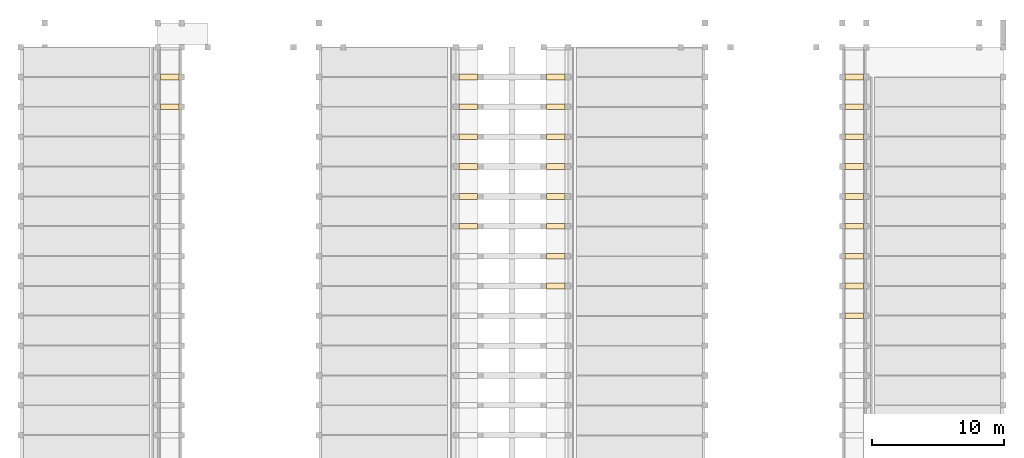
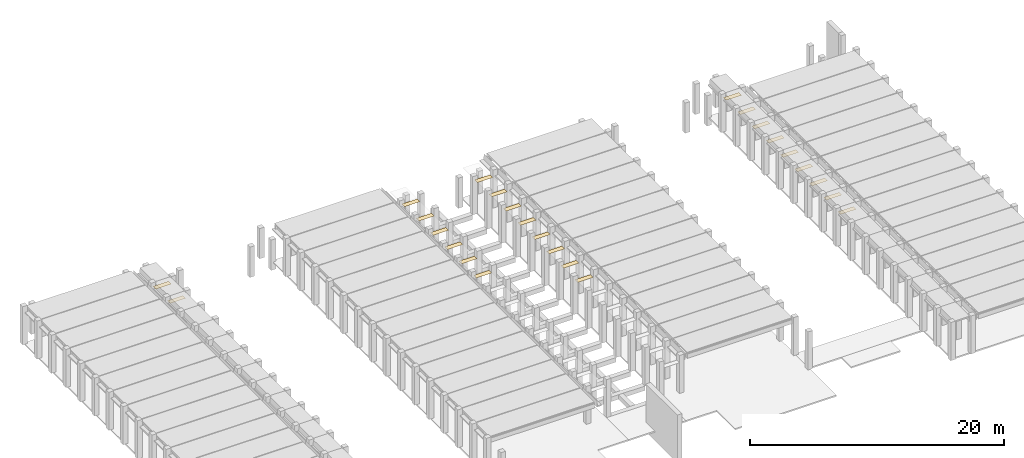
# One storey, part 18 of 18: 29 coverings.
"""IFC2X3 building model written with IfcOpenShell, lengths in millimetres."""

from ifc_helpers import new_model, entity, si_unit, converted_unit, derived_unit, direction, frame, origin, place, context, subcontext, project, spatial, face_set, surface_model, type_object, element, save


model = new_model("IFC2X3")

# Units and contexts
model_context = context("Model", 3, precision=0.01, world=origin(), true_north=direction((6.12303176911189e-17, 1.0)))
body_context = subcontext(model_context, "Body", "Model", "MODEL_VIEW")
ifc_project = project(units=[si_unit("LENGTHUNIT", "METRE", prefix="MILLI"), si_unit("AREAUNIT", "SQUARE_METRE"), si_unit("VOLUMEUNIT", "CUBIC_METRE"), converted_unit("PLANEANGLEUNIT", "DEGREE", entity("IfcRatioMeasure", 0.0174532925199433), si_unit("PLANEANGLEUNIT", "RADIAN"), dimensions=[0, 0, 0, 0, 0, 0, 0]), si_unit("MASSUNIT", "GRAM", prefix="KILO"), derived_unit("MASSDENSITYUNIT", [(si_unit("MASSUNIT", "GRAM", prefix="KILO"), 1), (si_unit("LENGTHUNIT", "METRE"), -3)]), derived_unit("MOMENTOFINERTIAUNIT", [(si_unit("LENGTHUNIT", "METRE"), 4)]), si_unit("TIMEUNIT", "SECOND"), si_unit("FREQUENCYUNIT", "HERTZ"), si_unit("THERMODYNAMICTEMPERATUREUNIT", "DEGREE_CELSIUS"), derived_unit("THERMALTRANSMITTANCEUNIT", [(si_unit("MASSUNIT", "GRAM", prefix="KILO"), 1), (si_unit("THERMODYNAMICTEMPERATUREUNIT", "KELVIN"), -1), (si_unit("TIMEUNIT", "SECOND"), -3)]), derived_unit("VOLUMETRICFLOWRATEUNIT", [(si_unit("LENGTHUNIT", "METRE"), 3), (si_unit("TIMEUNIT", "SECOND"), -1)]), si_unit("ELECTRICCURRENTUNIT", "AMPERE"), si_unit("ELECTRICVOLTAGEUNIT", "VOLT"), si_unit("POWERUNIT", "WATT"), si_unit("FORCEUNIT", "NEWTON", prefix="KILO"), si_unit("ILLUMINANCEUNIT", "LUX"), si_unit("LUMINOUSFLUXUNIT", "LUMEN"), si_unit("LUMINOUSINTENSITYUNIT", "CANDELA"), derived_unit("USERDEFINED", [(si_unit("MASSUNIT", "GRAM", prefix="KILO"), -1), (si_unit("LENGTHUNIT", "METRE"), -2), (si_unit("TIMEUNIT", "SECOND"), 3), (si_unit("LUMINOUSFLUXUNIT", "LUMEN"), 1)]), derived_unit("LINEARVELOCITYUNIT", [(si_unit("LENGTHUNIT", "METRE"), 1), (si_unit("TIMEUNIT", "SECOND"), -1)]), si_unit("PRESSUREUNIT", "PASCAL"), derived_unit("USERDEFINED", [(si_unit("LENGTHUNIT", "METRE"), -2), (si_unit("MASSUNIT", "GRAM", prefix="KILO"), 1), (si_unit("TIMEUNIT", "SECOND"), -2)]), derived_unit("LINEARFORCEUNIT", [(si_unit("MASSUNIT", "GRAM", prefix="KILO"), 1), (si_unit("LENGTHUNIT", "METRE"), 1), (si_unit("TIMEUNIT", "SECOND"), -2), (si_unit("LENGTHUNIT", "METRE"), -1)]), derived_unit("PLANARFORCEUNIT", [(si_unit("MASSUNIT", "GRAM", prefix="KILO"), 1), (si_unit("LENGTHUNIT", "METRE"), 1), (si_unit("TIMEUNIT", "SECOND"), -2), (si_unit("LENGTHUNIT", "METRE"), -2)])], contexts=[model_context])

# Site, building, storey
site_placement = place(None, frame((10627.5135316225, 21939.0796949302, 0.0)))
site = spatial("IfcSite", under=ifc_project, at=site_placement, Name="Default", CompositionType="ELEMENT")
building_placement = place(site_placement, origin())
building = spatial("IfcBuilding", under=site, at=building_placement, CompositionType="ELEMENT")
storey_placement = place(building_placement, frame((0.0, 0.0, 3660.0)))
storey = spatial("IfcBuildingStorey", under=building, at=storey_placement, Name="R+1", CompositionType="ELEMENT", Elevation=3660.0)

# Coverings
covering_type_1 = type_object("IfcCoveringType", Name="Basic Ceiling:Generic", PredefinedType="CEILING")
covering_1_placement = place(storey_placement, frame((22557.4864683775, 14005.9203050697, 2959.0)))
element("IfcCovering", 1, at=covering_1_placement, inside=storey, type_object=covering_type_1, Name="Basic Ceiling:Generic", ObjectType="Basic Ceiling:Generic", PredefinedType="CEILING", context=body_context, shape_type="SurfaceModel", body=[
    surface_model("IfcFaceBasedSurfaceModel", [(0.0, 430.0, 0.0), (0.0, 0.0, 0.0), (1400.0, 0.0, 0.0), (1400.0, 430.0, 0.0)], [face_set([[[0, 1, 2, 3]]])]),
])
covering_type_2 = type_object("IfcCoveringType", Name="Basic Ceiling:Generic", PredefinedType="CEILING")
covering_2_placement = place(storey_placement, frame((22557.4864683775, 11745.9203050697, 2959.0)))
element("IfcCovering", 2, at=covering_2_placement, inside=storey, type_object=covering_type_2, Name="Basic Ceiling:Generic", ObjectType="Basic Ceiling:Generic", PredefinedType="CEILING", context=body_context, shape_type="SurfaceModel", body=[
    surface_model("IfcFaceBasedSurfaceModel", [(0.0, 430.0, 0.0), (0.0, 0.0, 0.0), (1400.0, 0.0, 0.0), (1400.0, 430.0, 0.0)], [face_set([[[0, 1, 2, 3]]])]),
])
covering_type_3 = type_object("IfcCoveringType", Name="Basic Ceiling:Generic", PredefinedType="CEILING")
covering_3_placement = place(storey_placement, frame((22557.4864683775, 9485.92030506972, 2959.0)))
element("IfcCovering", 3, at=covering_3_placement, inside=storey, type_object=covering_type_3, Name="Basic Ceiling:Generic", ObjectType="Basic Ceiling:Generic", PredefinedType="CEILING", context=body_context, shape_type="SurfaceModel", body=[
    surface_model("IfcFaceBasedSurfaceModel", [(0.0, 430.0, 0.0), (0.0, 0.0, 0.0), (1400.0, 0.0, 0.0), (1400.0, 430.0, 0.0)], [face_set([[[0, 1, 2, 3]]])]),
])
covering_type_4 = type_object("IfcCoveringType", Name="Basic Ceiling:Generic", PredefinedType="CEILING")
covering_4_placement = place(storey_placement, frame((22557.4864683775, 7225.92030506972, 2959.0)))
element("IfcCovering", 4, at=covering_4_placement, inside=storey, type_object=covering_type_4, Name="Basic Ceiling:Generic", ObjectType="Basic Ceiling:Generic", PredefinedType="CEILING", context=body_context, shape_type="SurfaceModel", body=[
    surface_model("IfcFaceBasedSurfaceModel", [(0.0, 430.0, 0.0), (0.0, 0.0, 0.0), (1400.0, 0.0, 0.0), (1400.0, 430.0, 0.0)], [face_set([[[0, 1, 2, 3]]])]),
])
covering_type_5 = type_object("IfcCoveringType", Name="Basic Ceiling:Generic", PredefinedType="CEILING")
covering_5_placement = place(storey_placement, frame((22557.4864683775, 4965.92030506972, 2959.0)))
element("IfcCovering", 5, at=covering_5_placement, inside=storey, type_object=covering_type_5, Name="Basic Ceiling:Generic", ObjectType="Basic Ceiling:Generic", PredefinedType="CEILING", context=body_context, shape_type="SurfaceModel", body=[
    surface_model("IfcFaceBasedSurfaceModel", [(0.0, 430.0, 0.0), (0.0, 0.0, 0.0), (1400.0, 0.0, 0.0), (1400.0, 430.0, 0.0)], [face_set([[[0, 1, 2, 3]]])]),
])
covering_type_6 = type_object("IfcCoveringType", Name="Basic Ceiling:Generic", PredefinedType="CEILING")
covering_6_placement = place(storey_placement, frame((22557.4864683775, 2705.92030506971, 2959.0)))
element("IfcCovering", 6, at=covering_6_placement, inside=storey, type_object=covering_type_6, Name="Basic Ceiling:Generic", ObjectType="Basic Ceiling:Generic", PredefinedType="CEILING", context=body_context, shape_type="SurfaceModel", body=[
    surface_model("IfcFaceBasedSurfaceModel", [(0.0, 430.0, 0.0), (0.0, 0.0, 0.0), (1400.0, 0.0, 0.0), (1400.0, 430.0, 0.0)], [face_set([[[0, 1, 2, 3]]])]),
])
covering_type_7 = type_object("IfcCoveringType", Name="Basic Ceiling:Generic", PredefinedType="CEILING")
covering_7_placement = place(storey_placement, frame((22557.4864683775, 14005.9203050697, 2959.0)))
element("IfcCovering", 7, at=covering_7_placement, inside=storey, type_object=covering_type_7, Name="Basic Ceiling:Generic", ObjectType="Basic Ceiling:Generic", PredefinedType="CEILING", context=body_context, shape_type="SurfaceModel", body=[
    surface_model("IfcFaceBasedSurfaceModel", [(0.0, 431.696695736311, 0.0), (0.0, 0.0, 0.0), (1400.0, 0.0, 0.0), (1400.0, 431.696695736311, 0.0)], [face_set([[[0, 1, 2, 3]]])]),
])
covering_type_8 = type_object("IfcCoveringType", Name="Basic Ceiling:Generic", PredefinedType="CEILING")
covering_8_placement = place(storey_placement, frame((-32.5135316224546, 14005.9203050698, 2959.0)))
element("IfcCovering", 8, at=covering_8_placement, inside=storey, type_object=covering_type_8, Name="Basic Ceiling:Generic", ObjectType="Basic Ceiling:Generic", PredefinedType="CEILING", context=body_context, shape_type="SurfaceModel", body=[
    surface_model("IfcFaceBasedSurfaceModel", [(0.0, 430.0, 0.0), (0.0, 0.0, 0.0), (1400.0, 0.0, 0.0), (1400.0, 430.0, 0.0)], [face_set([[[0, 1, 2, 3]]])]),
])
covering_type_9 = type_object("IfcCoveringType", Name="Basic Ceiling:Generic", PredefinedType="CEILING")
covering_9_placement = place(storey_placement, frame((-32.5135316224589, 11745.9203050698, 2959.0)))
element("IfcCovering", 9, at=covering_9_placement, inside=storey, type_object=covering_type_9, Name="Basic Ceiling:Generic", ObjectType="Basic Ceiling:Generic", PredefinedType="CEILING", context=body_context, shape_type="SurfaceModel", body=[
    surface_model("IfcFaceBasedSurfaceModel", [(0.0, 430.0, 0.0), (0.0, 0.0, 0.0), (1400.0, 0.0, 0.0), (1400.0, 430.0, 0.0)], [face_set([[[0, 1, 2, 3]]])]),
])
covering_type_10 = type_object("IfcCoveringType", Name="Basic Ceiling:Generic", PredefinedType="CEILING")
covering_10_placement = place(storey_placement, frame((-32.5135316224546, 14005.9203050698, 2959.0)))
element("IfcCovering", 10, at=covering_10_placement, inside=storey, type_object=covering_type_10, Name="Basic Ceiling:Generic", ObjectType="Basic Ceiling:Generic", PredefinedType="CEILING", context=body_context, shape_type="SurfaceModel", body=[
    surface_model("IfcFaceBasedSurfaceModel", [(0.0, 431.696695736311, 0.0), (0.0, 0.0, 0.0), (1400.0, 0.0, 0.0), (1400.0, 431.696695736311, 0.0)], [face_set([[[0, 1, 2, 3]]])]),
])
covering_type_11 = type_object("IfcCoveringType", Name="Basic Ceiling:Generic", PredefinedType="CEILING")
covering_11_placement = place(storey_placement, frame((29197.4864683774, 14005.9203050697, 2959.0)))
element("IfcCovering", 11, at=covering_11_placement, inside=storey, type_object=covering_type_11, Name="Basic Ceiling:Generic", ObjectType="Basic Ceiling:Generic", PredefinedType="CEILING", context=body_context, shape_type="SurfaceModel", body=[
    surface_model("IfcFaceBasedSurfaceModel", [(1400.0, 430.0, 0.0), (0.0, 430.0, 0.0), (0.0, 0.0, 0.0), (1400.0, 0.0, 0.0)], [face_set([[[0, 1, 2, 3]]])]),
])
covering_type_12 = type_object("IfcCoveringType", Name="Basic Ceiling:Generic", PredefinedType="CEILING")
covering_12_placement = place(storey_placement, frame((29197.4864683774, 11745.9203050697, 2959.0)))
element("IfcCovering", 12, at=covering_12_placement, inside=storey, type_object=covering_type_12, Name="Basic Ceiling:Generic", ObjectType="Basic Ceiling:Generic", PredefinedType="CEILING", context=body_context, shape_type="SurfaceModel", body=[
    surface_model("IfcFaceBasedSurfaceModel", [(1400.0, 430.0, 0.0), (0.0, 430.0, 0.0), (0.0, 0.0, 0.0), (1400.0, 0.0, 0.0)], [face_set([[[0, 1, 2, 3]]])]),
])
covering_type_13 = type_object("IfcCoveringType", Name="Basic Ceiling:Generic", PredefinedType="CEILING")
covering_13_placement = place(storey_placement, frame((29197.4864683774, 9485.92030506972, 2959.0)))
element("IfcCovering", 13, at=covering_13_placement, inside=storey, type_object=covering_type_13, Name="Basic Ceiling:Generic", ObjectType="Basic Ceiling:Generic", PredefinedType="CEILING", context=body_context, shape_type="SurfaceModel", body=[
    surface_model("IfcFaceBasedSurfaceModel", [(1400.0, 430.0, 0.0), (0.0, 430.0, 0.0), (0.0, 0.0, 0.0), (1400.0, 0.0, 0.0)], [face_set([[[0, 1, 2, 3]]])]),
])
covering_type_14 = type_object("IfcCoveringType", Name="Basic Ceiling:Generic", PredefinedType="CEILING")
covering_14_placement = place(storey_placement, frame((29197.4864683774, 7225.92030506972, 2959.0)))
element("IfcCovering", 14, at=covering_14_placement, inside=storey, type_object=covering_type_14, Name="Basic Ceiling:Generic", ObjectType="Basic Ceiling:Generic", PredefinedType="CEILING", context=body_context, shape_type="SurfaceModel", body=[
    surface_model("IfcFaceBasedSurfaceModel", [(1400.0, 430.0, 0.0), (0.0, 430.0, 0.0), (0.0, 0.0, 0.0), (1400.0, 0.0, 0.0)], [face_set([[[0, 1, 2, 3]]])]),
])
covering_type_15 = type_object("IfcCoveringType", Name="Basic Ceiling:Generic", PredefinedType="CEILING")
covering_15_placement = place(storey_placement, frame((29197.4864683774, 4965.92030506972, 2959.0)))
element("IfcCovering", 15, at=covering_15_placement, inside=storey, type_object=covering_type_15, Name="Basic Ceiling:Generic", ObjectType="Basic Ceiling:Generic", PredefinedType="CEILING", context=body_context, shape_type="SurfaceModel", body=[
    surface_model("IfcFaceBasedSurfaceModel", [(1400.0, 430.0, 0.0), (0.0, 430.0, 0.0), (0.0, 0.0, 0.0), (1400.0, 0.0, 0.0)], [face_set([[[0, 1, 2, 3]]])]),
])
covering_type_16 = type_object("IfcCoveringType", Name="Basic Ceiling:Generic", PredefinedType="CEILING")
covering_16_placement = place(storey_placement, frame((29197.4864683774, 2705.92030506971, 2959.0)))
element("IfcCovering", 16, at=covering_16_placement, inside=storey, type_object=covering_type_16, Name="Basic Ceiling:Generic", ObjectType="Basic Ceiling:Generic", PredefinedType="CEILING", context=body_context, shape_type="SurfaceModel", body=[
    surface_model("IfcFaceBasedSurfaceModel", [(1400.0, 430.0, 0.0), (0.0, 430.0, 0.0), (0.0, 0.0, 0.0), (1400.0, 0.0, 0.0)], [face_set([[[0, 1, 2, 3]]])]),
])
covering_type_17 = type_object("IfcCoveringType", Name="Basic Ceiling:Generic", PredefinedType="CEILING")
covering_17_placement = place(storey_placement, frame((29197.4864683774, 445.920305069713, 2959.0)))
element("IfcCovering", 17, at=covering_17_placement, inside=storey, type_object=covering_type_17, Name="Basic Ceiling:Generic", ObjectType="Basic Ceiling:Generic", PredefinedType="CEILING", context=body_context, shape_type="SurfaceModel", body=[
    surface_model("IfcFaceBasedSurfaceModel", [(1400.0, 430.0, 0.0), (0.0, 430.0, 0.0), (0.0, 0.0, 0.0), (1400.0, 0.0, 0.0)], [face_set([[[0, 1, 2, 3]]])]),
])
covering_type_18 = type_object("IfcCoveringType", Name="Basic Ceiling:Generic", PredefinedType="CEILING")
covering_18_placement = place(storey_placement, frame((29197.4864683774, -1814.07969493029, 2959.0)))
element("IfcCovering", 18, at=covering_18_placement, inside=storey, type_object=covering_type_18, Name="Basic Ceiling:Generic", ObjectType="Basic Ceiling:Generic", PredefinedType="CEILING", context=body_context, shape_type="SurfaceModel", body=[
    surface_model("IfcFaceBasedSurfaceModel", [(1400.0, 430.0, 0.0), (0.0, 430.0, 0.0), (0.0, 0.0, 0.0), (1400.0, 0.0, 0.0)], [face_set([[[0, 1, 2, 3]]])]),
])
covering_type_19 = type_object("IfcCoveringType", Name="Basic Ceiling:Generic", PredefinedType="CEILING")
covering_19_placement = place(storey_placement, frame((29197.4864683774, 14005.9203050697, 2959.0)))
element("IfcCovering", 19, at=covering_19_placement, inside=storey, type_object=covering_type_19, Name="Basic Ceiling:Generic", ObjectType="Basic Ceiling:Generic", PredefinedType="CEILING", context=body_context, shape_type="SurfaceModel", body=[
    surface_model("IfcFaceBasedSurfaceModel", [(1400.0, 431.696695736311, 0.0), (0.0, 431.696695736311, 0.0), (0.0, 0.0, 0.0), (1400.0, 0.0, 0.0)], [face_set([[[0, 1, 2, 3]]])]),
])
covering_type_20 = type_object("IfcCoveringType", Name="Basic Ceiling:Generic", PredefinedType="CEILING")
covering_20_placement = place(storey_placement, frame((51787.4864683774, 14005.9203050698, 2959.0)))
element("IfcCovering", 20, at=covering_20_placement, inside=storey, type_object=covering_type_20, Name="Basic Ceiling:Generic", ObjectType="Basic Ceiling:Generic", PredefinedType="CEILING", context=body_context, shape_type="SurfaceModel", body=[
    surface_model("IfcFaceBasedSurfaceModel", [(1400.0, 430.0, 0.0), (0.0, 430.0, 0.0), (0.0, 0.0, 0.0), (1400.0, 0.0, 0.0)], [face_set([[[0, 1, 2, 3]]])]),
])
covering_type_21 = type_object("IfcCoveringType", Name="Basic Ceiling:Generic", PredefinedType="CEILING")
covering_21_placement = place(storey_placement, frame((51787.4864683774, 11745.9203050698, 2959.0)))
element("IfcCovering", 21, at=covering_21_placement, inside=storey, type_object=covering_type_21, Name="Basic Ceiling:Generic", ObjectType="Basic Ceiling:Generic", PredefinedType="CEILING", context=body_context, shape_type="SurfaceModel", body=[
    surface_model("IfcFaceBasedSurfaceModel", [(1400.0, 430.0, 0.0), (0.0, 430.0, 0.0), (0.0, 0.0, 0.0), (1400.0, 0.0, 0.0)], [face_set([[[0, 1, 2, 3]]])]),
])
covering_type_22 = type_object("IfcCoveringType", Name="Basic Ceiling:Generic", PredefinedType="CEILING")
covering_22_placement = place(storey_placement, frame((51787.4864683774, 9485.92030506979, 2959.0)))
element("IfcCovering", 22, at=covering_22_placement, inside=storey, type_object=covering_type_22, Name="Basic Ceiling:Generic", ObjectType="Basic Ceiling:Generic", PredefinedType="CEILING", context=body_context, shape_type="SurfaceModel", body=[
    surface_model("IfcFaceBasedSurfaceModel", [(1400.0, 430.0, 0.0), (0.0, 430.0, 0.0), (0.0, 0.0, 0.0), (1400.0, 0.0, 0.0)], [face_set([[[0, 1, 2, 3]]])]),
])
covering_type_23 = type_object("IfcCoveringType", Name="Basic Ceiling:Generic", PredefinedType="CEILING")
covering_23_placement = place(storey_placement, frame((51787.4864683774, 7225.92030506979, 2959.0)))
element("IfcCovering", 23, at=covering_23_placement, inside=storey, type_object=covering_type_23, Name="Basic Ceiling:Generic", ObjectType="Basic Ceiling:Generic", PredefinedType="CEILING", context=body_context, shape_type="SurfaceModel", body=[
    surface_model("IfcFaceBasedSurfaceModel", [(1400.0, 430.0, 0.0), (0.0, 430.0, 0.0), (0.0, 0.0, 0.0), (1400.0, 0.0, 0.0)], [face_set([[[0, 1, 2, 3]]])]),
])
covering_type_24 = type_object("IfcCoveringType", Name="Basic Ceiling:Generic", PredefinedType="CEILING")
covering_24_placement = place(storey_placement, frame((51787.4864683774, 4965.92030506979, 2959.0)))
element("IfcCovering", 24, at=covering_24_placement, inside=storey, type_object=covering_type_24, Name="Basic Ceiling:Generic", ObjectType="Basic Ceiling:Generic", PredefinedType="CEILING", context=body_context, shape_type="SurfaceModel", body=[
    surface_model("IfcFaceBasedSurfaceModel", [(1400.0, 430.0, 0.0), (0.0, 430.0, 0.0), (0.0, 0.0, 0.0), (1400.0, 0.0, 0.0)], [face_set([[[0, 1, 2, 3]]])]),
])
covering_type_25 = type_object("IfcCoveringType", Name="Basic Ceiling:Generic", PredefinedType="CEILING")
covering_25_placement = place(storey_placement, frame((51787.4864683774, 2705.92030506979, 2959.0)))
element("IfcCovering", 25, at=covering_25_placement, inside=storey, type_object=covering_type_25, Name="Basic Ceiling:Generic", ObjectType="Basic Ceiling:Generic", PredefinedType="CEILING", context=body_context, shape_type="SurfaceModel", body=[
    surface_model("IfcFaceBasedSurfaceModel", [(1400.0, 430.0, 0.0), (0.0, 430.0, 0.0), (0.0, 0.0, 0.0), (1400.0, 0.0, 0.0)], [face_set([[[0, 1, 2, 3]]])]),
])
covering_type_26 = type_object("IfcCoveringType", Name="Basic Ceiling:Generic", PredefinedType="CEILING")
covering_26_placement = place(storey_placement, frame((51787.4864683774, 445.920305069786, 2959.0)))
element("IfcCovering", 26, at=covering_26_placement, inside=storey, type_object=covering_type_26, Name="Basic Ceiling:Generic", ObjectType="Basic Ceiling:Generic", PredefinedType="CEILING", context=body_context, shape_type="SurfaceModel", body=[
    surface_model("IfcFaceBasedSurfaceModel", [(1400.0, 430.0, 0.0), (0.0, 430.0, 0.0), (0.0, 0.0, 0.0), (1400.0, 0.0, 0.0)], [face_set([[[0, 1, 2, 3]]])]),
])
covering_type_27 = type_object("IfcCoveringType", Name="Basic Ceiling:Generic", PredefinedType="CEILING")
covering_27_placement = place(storey_placement, frame((51787.4864683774, -1814.07969493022, 2959.0)))
element("IfcCovering", 27, at=covering_27_placement, inside=storey, type_object=covering_type_27, Name="Basic Ceiling:Generic", ObjectType="Basic Ceiling:Generic", PredefinedType="CEILING", context=body_context, shape_type="SurfaceModel", body=[
    surface_model("IfcFaceBasedSurfaceModel", [(1400.0, 430.0, 0.0), (0.0, 430.0, 0.0), (0.0, 0.0, 0.0), (1400.0, 0.0, 0.0)], [face_set([[[0, 1, 2, 3]]])]),
])
covering_type_28 = type_object("IfcCoveringType", Name="Basic Ceiling:Generic", PredefinedType="CEILING")
covering_28_placement = place(storey_placement, frame((51787.4864683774, -4074.07969493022, 2959.0)))
element("IfcCovering", 28, at=covering_28_placement, inside=storey, type_object=covering_type_28, Name="Basic Ceiling:Generic", ObjectType="Basic Ceiling:Generic", PredefinedType="CEILING", context=body_context, shape_type="SurfaceModel", body=[
    surface_model("IfcFaceBasedSurfaceModel", [(1400.0, 430.0, 0.0), (0.0, 430.0, 0.0), (0.0, 0.0, 0.0), (1400.0, 0.0, 0.0)], [face_set([[[0, 1, 2, 3]]])]),
])
covering_type_29 = type_object("IfcCoveringType", Name="Basic Ceiling:Generic", PredefinedType="CEILING")
covering_29_placement = place(storey_placement, frame((51787.4864683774, 14005.9203050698, 2959.0)))
element("IfcCovering", 29, at=covering_29_placement, inside=storey, type_object=covering_type_29, Name="Basic Ceiling:Generic", ObjectType="Basic Ceiling:Generic", PredefinedType="CEILING", context=body_context, shape_type="SurfaceModel", body=[
    surface_model("IfcFaceBasedSurfaceModel", [(1400.0, 431.696695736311, 0.0), (0.0, 431.696695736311, 0.0), (0.0, 0.0, 0.0), (1400.0, 0.0, 0.0)], [face_set([[[0, 1, 2, 3]]])]),
])

save(model, "model.ifc")
